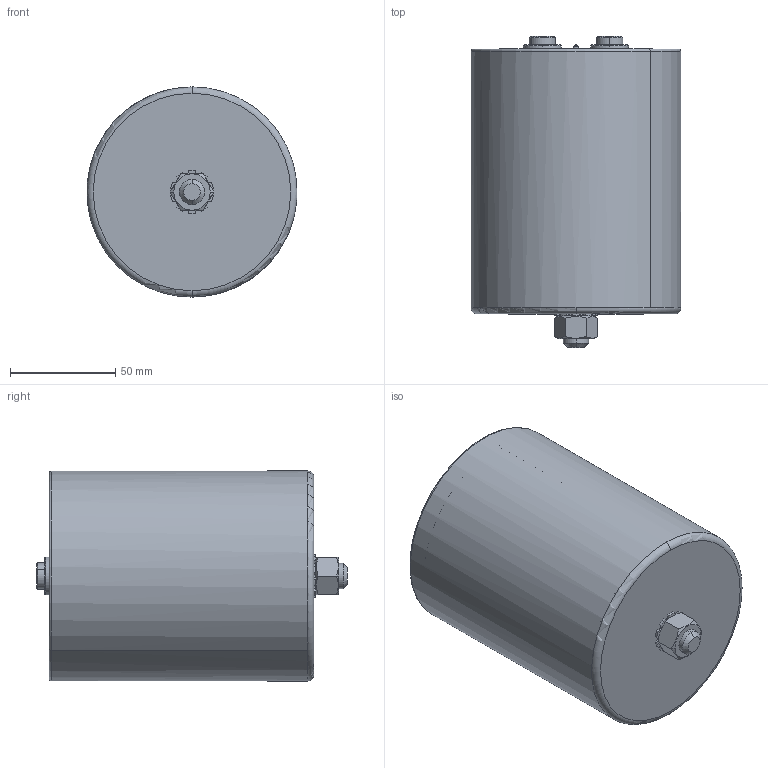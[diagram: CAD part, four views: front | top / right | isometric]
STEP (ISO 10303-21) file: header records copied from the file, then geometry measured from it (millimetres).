
FILE_DESCRIPTION (( 'STEP AP214' ), '1' );
FILE_NAME ('B25696 Series D100Hc126Ht132.STEP', '2025-03-20T05:52:43', ( '' ), ( '' ), 'SwSTEP 2.0', 'SolidWorks 2019', '' );
FILE_SCHEMA (( 'AUTOMOTIVE_DESIGN' ));
Length unit declared in the file: millimetre
Products named in the file (1): B25696 Series D100Hc126Ht132
Bounding box: 99.91 x 148 x 100 mm (x, y, z)
Volume: 102563.9 mm3; surface area: 126182.3 mm2
Topology: 1 solids, 5 shells, 368 faces, 936 edges, 591 vertices
Faces by surface type: plane 166, cylinder 132, cone 50, torus 20
Entity records: 11507 total; most frequent: CARTESIAN_POINT 2600, DIRECTION 1905, ORIENTED_EDGE 1864, EDGE_CURVE 932, AXIS2_PLACEMENT_3D 748, VERTEX_POINT 591, LINE 409, VECTOR 409
